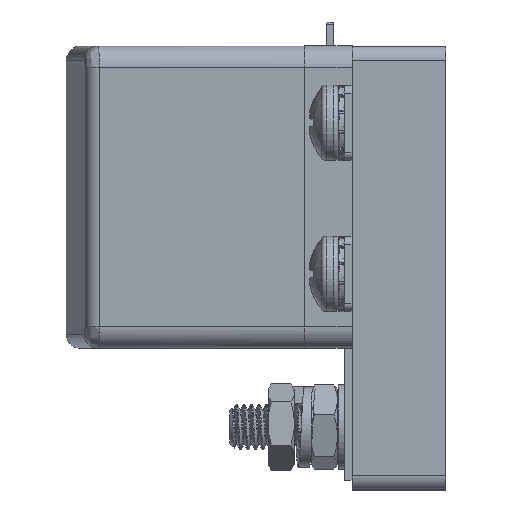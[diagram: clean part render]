
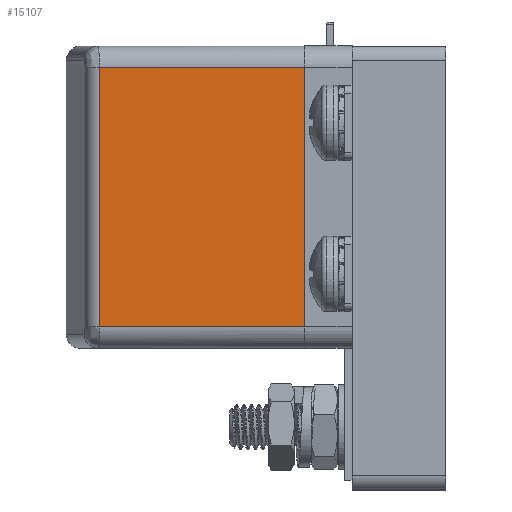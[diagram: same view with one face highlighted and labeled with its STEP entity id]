
A CAD part, left-side view. The second image highlights one B-rep face of the part: STEP entity #15107.
In plain terms, the highlighted planar face has unit normal (-1, 0, 0).
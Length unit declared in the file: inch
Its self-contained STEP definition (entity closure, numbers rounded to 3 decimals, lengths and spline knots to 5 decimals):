
#1277=PLANE('',#16416);
#2101=FACE_OUTER_BOUND('',#2994,.T.);
#2994=EDGE_LOOP('',(#14078,#14079,#14080,#14081));
#4403=LINE('',#32774,#5816);
#4408=LINE('',#32784,#5821);
#4409=LINE('',#32788,#5822);
#4410=LINE('',#32789,#5823);
#5816=VECTOR('',#19992,0.3937);
#5821=VECTOR('',#20001,0.3937);
#5822=VECTOR('',#20006,0.3937);
#5823=VECTOR('',#20007,0.3937);
#7595=VERTEX_POINT('',#32628);
#7608=VERTEX_POINT('',#32761);
#7611=VERTEX_POINT('',#32783);
#7612=VERTEX_POINT('',#32787);
#9770=EDGE_CURVE('',#7595,#7608,#4403,.T.);
#9775=EDGE_CURVE('',#7611,#7608,#4408,.T.);
#9777=EDGE_CURVE('',#7612,#7595,#4409,.T.);
#9778=EDGE_CURVE('',#7611,#7612,#4410,.T.);
#14078=ORIENTED_EDGE('',*,*,#9770,.F.);
#14079=ORIENTED_EDGE('',*,*,#9777,.F.);
#14080=ORIENTED_EDGE('',*,*,#9778,.F.);
#14081=ORIENTED_EDGE('',*,*,#9775,.T.);
#15107=ADVANCED_FACE('',(#2101),#1277,.T.);
#16416=AXIS2_PLACEMENT_3D('',#32786,#20004,#20005);
#19992=DIRECTION('',(0.,-1.,0.));
#20001=DIRECTION('',(0.,0.,1.));
#20004=DIRECTION('center_axis',(-1.,0.,0.));
#20005=DIRECTION('ref_axis',(0.,-1.,0.));
#20006=DIRECTION('',(0.,0.,1.));
#20007=DIRECTION('',(0.,1.,0.));
#32628=CARTESIAN_POINT('',(-1.25,0.54,0.85631));
#32761=CARTESIAN_POINT('',(-1.25,-0.54,0.85631));
#32774=CARTESIAN_POINT('',(-1.25,-0.63,0.85631));
#32783=CARTESIAN_POINT('',(-1.25,-0.54,0.));
#32784=CARTESIAN_POINT('',(-1.25,-0.54,0.));
#32786=CARTESIAN_POINT('Origin',(-1.25,0.54,0.));
#32787=CARTESIAN_POINT('',(-1.25,0.54,0.));
#32788=CARTESIAN_POINT('',(-1.25,0.54,0.));
#32789=CARTESIAN_POINT('',(-1.25,-0.54,0.));
